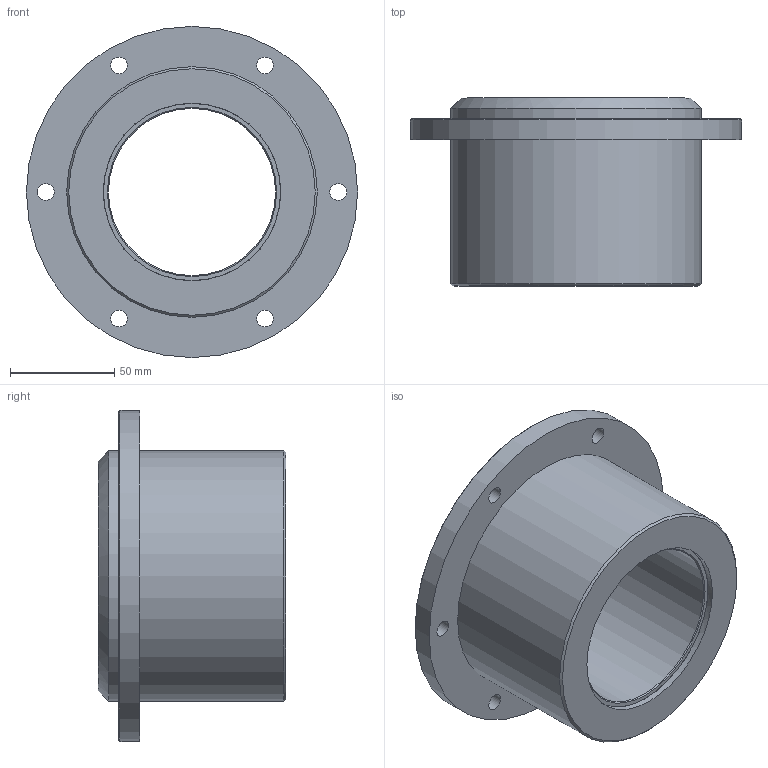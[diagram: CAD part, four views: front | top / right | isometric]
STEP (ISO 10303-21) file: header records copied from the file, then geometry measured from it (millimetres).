
FILE_DESCRIPTION(('STEP AP214'),'1');
FILE_NAME('C:/Projets/Serie 10.xx.xx/10.13.08.step','2011-11-10T15:50:48',(' '),(' '),'Spatial InterOp 3D',' ',' ');
FILE_SCHEMA(('automotive_design'));
Length unit declared in the file: metre
Products named in the file (3): boitier 08; rotule 08; 1
Bounding box: 158.5 x 90 x 158.5 mm (x, y, z)
Volume: 568260.9 mm3; surface area: 133835.6 mm2
Topology: 2 solids, 2 shells, 43 faces, 906 edges, 1654 vertices
Faces by surface type: cylinder 19, plane 11, cone 11, sphere 2
Full cylindrical faces by diameter (mm): 8 x6, 80 x1, 85 x1, 120 x2, 158.5 x1
Entity records: 11185 total; most frequent: CARTESIAN_POINT 1051, DIRECTION 1022, STYLED_ITEM 842, PRESENTATION_STYLE_ASSIGNMENT 842, COLOUR_RGB 842, LINE 804, VECTOR 804, TRIMMED_CURVE 799
